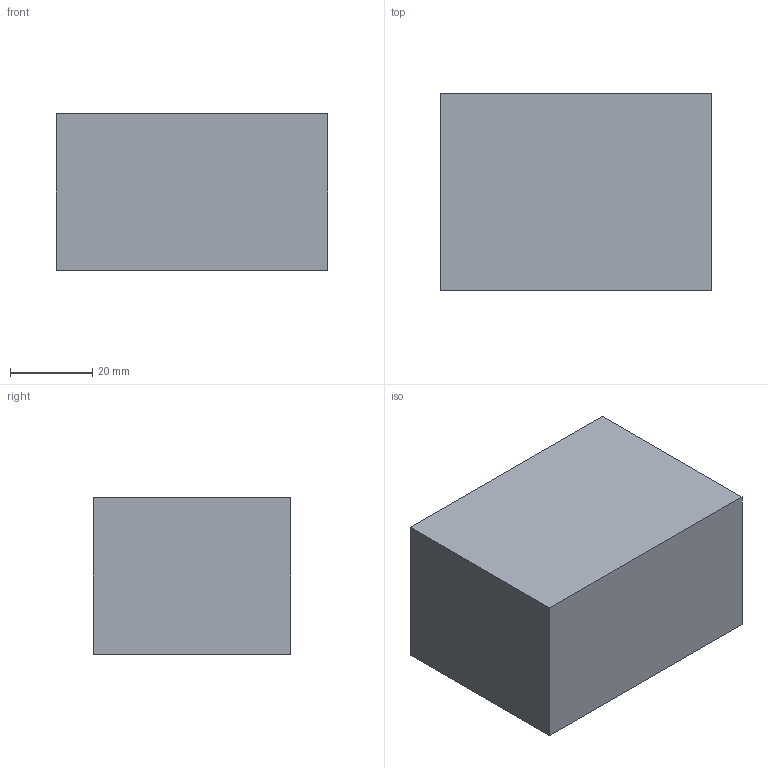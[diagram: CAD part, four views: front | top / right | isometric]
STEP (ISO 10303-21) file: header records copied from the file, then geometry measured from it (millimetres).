
FILE_DESCRIPTION (( 'STEP AP203' ), '1' );
FILE_NAME ('FTNES08.STEP', '2026-06-26T01:18:40', ( 'USER' ), ( '' ), 'SwSTEP 2.0', 'SolidWorks 2023', '' );
FILE_SCHEMA (( 'CONFIG_CONTROL_DESIGN' ));
Length unit declared in the file: millimetre
Products named in the file (1): FTNES08
Bounding box: 66 x 48 x 38 mm (x, y, z)
Volume: 103849.7 mm3; surface area: 18517.4 mm2
Topology: 1 solids, 1 shells, 35 faces, 72 edges, 41 vertices
Faces by surface type: cylinder 13, cone 12, plane 10
Entity records: 990 total; most frequent: CARTESIAN_POINT 173, DIRECTION 167, ORIENTED_EDGE 144, EDGE_CURVE 72, AXIS2_PLACEMENT_3D 67, VERTEX_POINT 41, EDGE_LOOP 39, FACE_OUTER_BOUND 35
